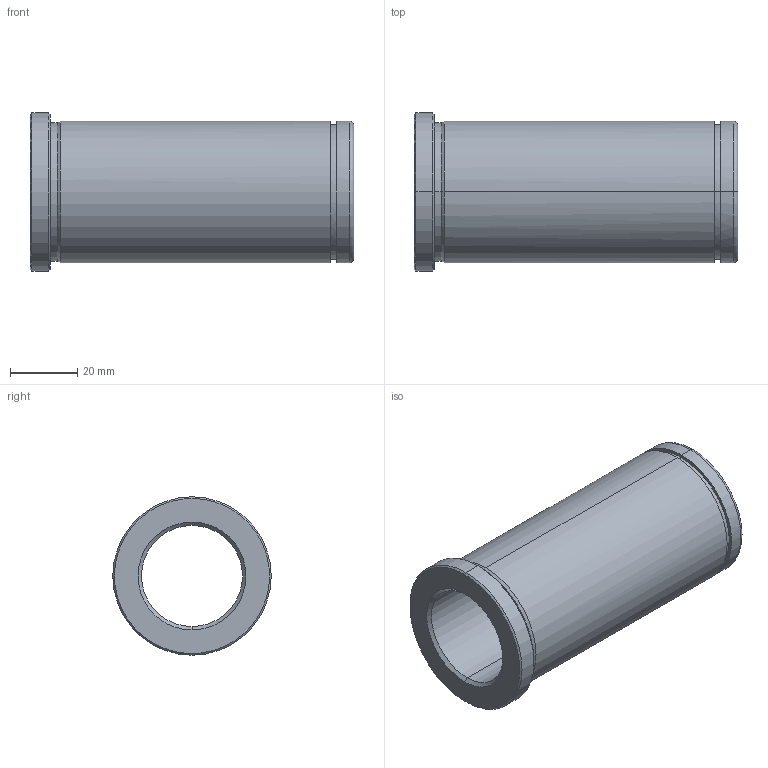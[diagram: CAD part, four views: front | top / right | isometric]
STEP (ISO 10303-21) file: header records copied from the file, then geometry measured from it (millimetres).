
FILE_DESCRIPTION(('CATIA V5 STEP Exchange'),'2;1');
FILE_NAME('C:\Users\Utente\Desktop\IO LAVORO\3D X SITO CF\X SITO\PLASTICA\553\553-30X96.stp','2021-05-26T18:21:06+00:00',('none'),('none'),'CATIA Version 5 Release 20 GA (IN-10)','CATIA V5 STEP AP203','none');
FILE_SCHEMA(('CONFIG_CONTROL_DESIGN'));
Length unit declared in the file: millimetre
Products named in the file (1): 553-30X96
Bounding box: 96 x 47 x 47 mm (x, y, z)
Volume: 66587.9 mm3; surface area: 23878.1 mm2
Topology: 1 solids, 1 shells, 29 faces, 92 edges, 68 vertices
Faces by surface type: cylinder 12, cone 8, plane 5, torus 4
Entity records: 1228 total; most frequent: CARTESIAN_POINT 378, ORIENTED_EDGE 184, DIRECTION 134, EDGE_CURVE 92, AXIS2_PLACEMENT_3D 86, VERTEX_POINT 68, CIRCLE 56, EDGE_LOOP 34
